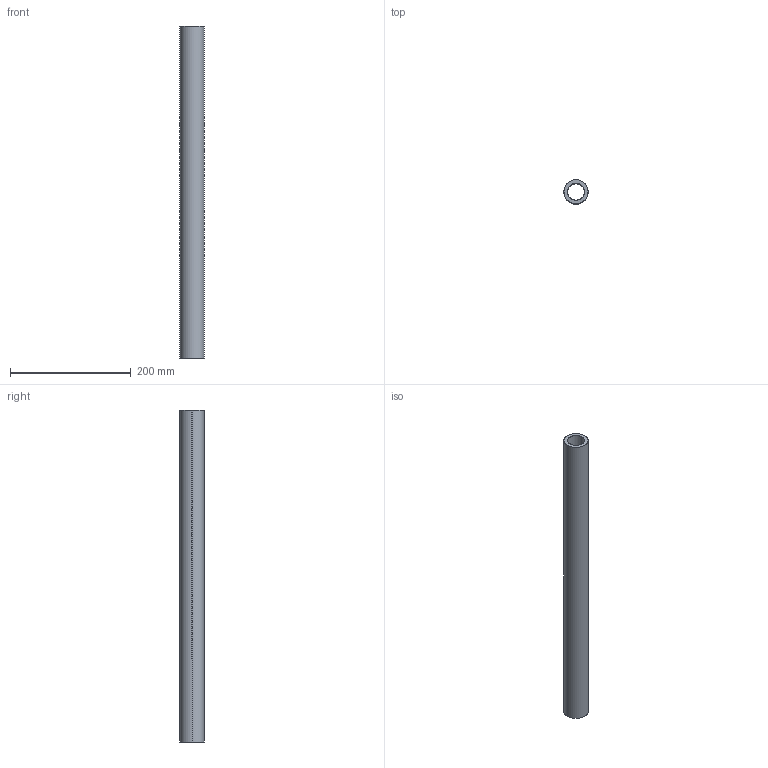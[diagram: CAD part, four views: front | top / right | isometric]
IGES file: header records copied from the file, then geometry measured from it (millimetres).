
Start section: SolidWorks IGES file using analytic representation for surfaces
Global section: file name: C:\Users\IanO\Desktop\L1771_v2\L1771.40_v2\L1771.40_v2_20230705_IGES\L1771.40-0550.igs; native system: SolidWorks 2019; preprocessor: SolidWorks 2019; author: IanO; date: 230705.160032; units: millimetre
Bounding box: 40 x 40 x 550 mm (x, y, z)
Surface area: 118777.3 mm2 (no closed solid volume)
Topology: 0 solids, 0 shells, 6 faces, 272 edges, 272 vertices
Faces by surface type: revolution 4, bspline 2
